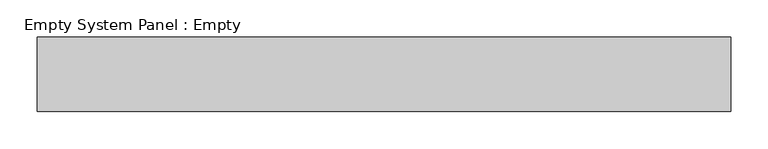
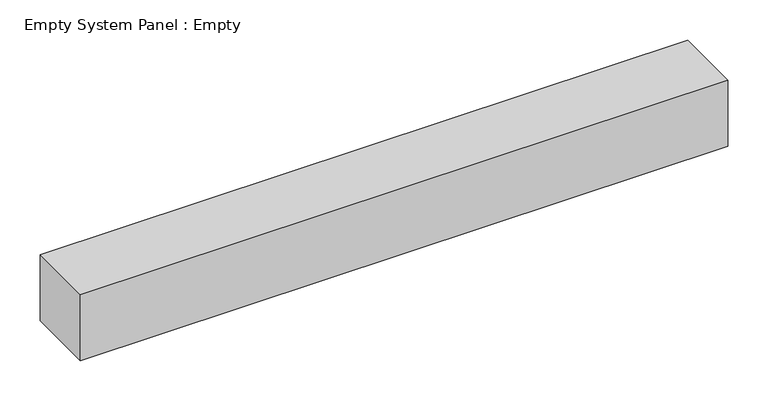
"""IFC4 building model written with IfcOpenShell, lengths in millimetres: plate geometry, Empty System Panel : Empty."""

from ifc_helpers import new_model, si_unit, origin, origin_with_axes, place, context, project, spatial, polyline, outline, extrude, source, transform, mapped, element, save


def empty_system_panel_empty_4aabe192(model_context):
    return source(origin(), model_context, "Body", "SweptSolid", [
        extrude(outline(polyline([(464.2950184, -50.0), (-464.2950184, -50.0), (-464.2950184, 50.0), (464.2950184, 50.0), (464.2950184, -50.0)])), origin_with_axes(), (0.0, 0.0, 1.0), 100.0),
    ])


if __name__ == "__main__":
    model = new_model("IFC4")
    model_context = context("Model", 3, world=origin())
    ifc_project = project(units=[si_unit("LENGTHUNIT", "METRE", prefix="MILLI")], contexts=[model_context])
    site = spatial("IfcSite", under=ifc_project)
    building = spatial("IfcBuilding", under=site)
    placement = place(None, origin())
    empty_system_panel_empty_shape = empty_system_panel_empty_4aabe192(model_context)
    element("IfcPlate", 1, ObjectType="Empty System Panel : Empty", at=placement, inside=building, context=model_context, shape_type="MappedRepresentation", body=[
        mapped(empty_system_panel_empty_shape, transform((0.0, 0.0, 0.0), x_axis=(1.0, 0.0, 0.0), y_axis=(0.0, 1.0, 0.0), z_axis=(0.0, 0.0, 1.0))),
    ])
    save(model, "model.ifc")
